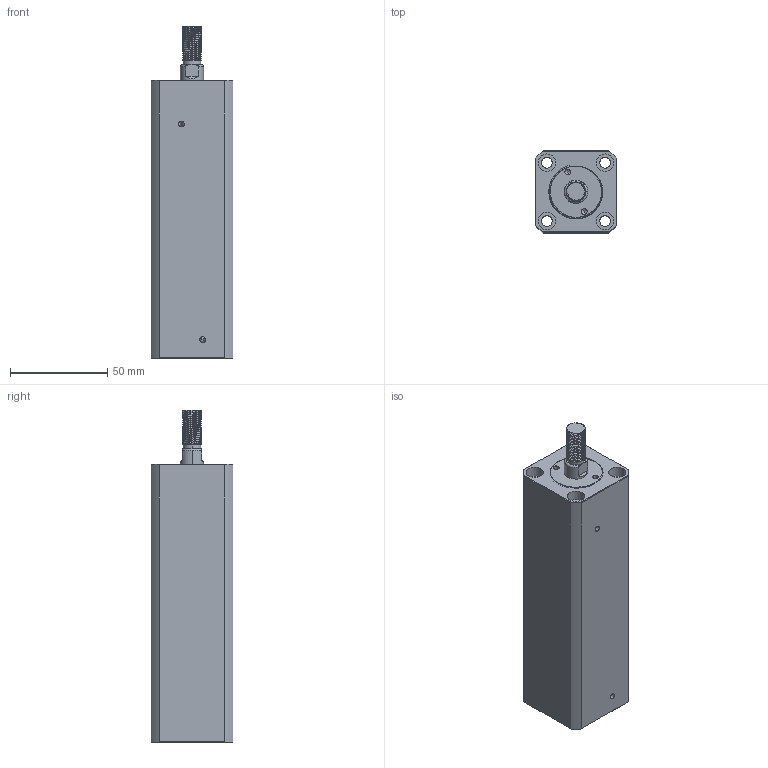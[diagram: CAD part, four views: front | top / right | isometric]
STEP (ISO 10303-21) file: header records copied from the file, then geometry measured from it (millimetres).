
FILE_DESCRIPTION (( 'STEP AP214' ), '1' );
FILE_NAME ('chtb-sdmb20x100w_asm.STEP', '2018-05-18T08:39:03', ( 'Windows' ), ( 'Microsoft' ), 'SwSTEP 2.0', 'SolidWorks 2015', '' );
FILE_SCHEMA (( 'AUTOMOTIVE_DESIGN' ));
Length unit declared in the file: millimetre
Products named in the file (4): QG_3; CHTB-SDMB20X100WHSG; CHTB-SDMB20X100NBT; chtb-sdmb20x100w_asm
Assembly tree (3 placements, depth 2):
  chtb-sdmb20x100w_asm
    CHTB-SDMB20X100NBT
    CHTB-SDMB20X100WHSG
    QG_3
Bounding box: 42 x 42 x 171 mm (x, y, z)
Volume: 212093.9 mm3; surface area: 58687.4 mm2
Topology: 3 solids, 3 shells, 243 faces, 660 edges, 439 vertices
Faces by surface type: cylinder 143, plane 47, torus 25, bspline 23, cone 5
Entity records: 14768 total; most frequent: CARTESIAN_POINT 8984, ORIENTED_EDGE 1312, DIRECTION 1058, EDGE_CURVE 656, VERTEX_POINT 439, AXIS2_PLACEMENT_3D 434, EDGE_LOOP 281, FACE_OUTER_BOUND 243
